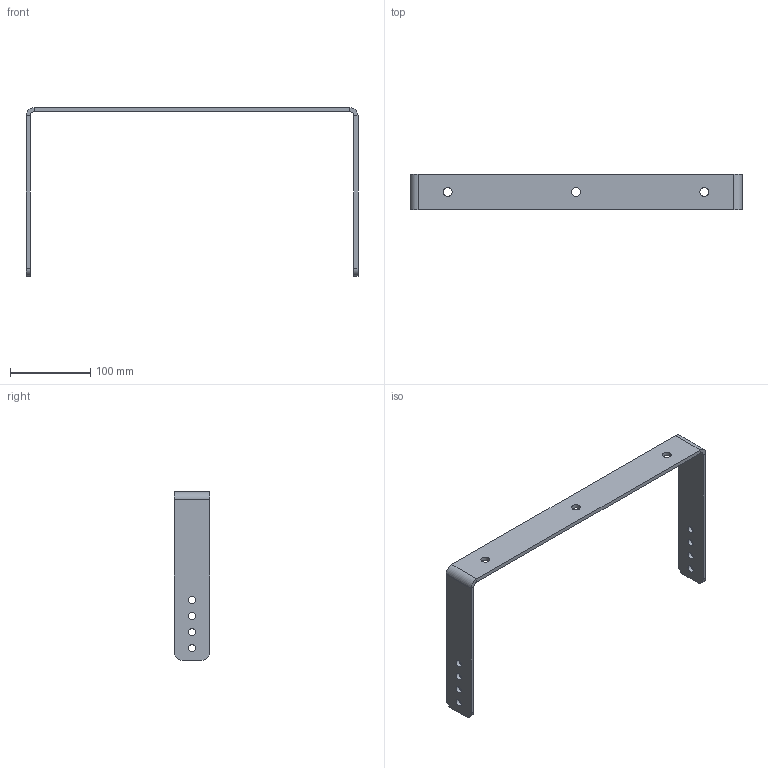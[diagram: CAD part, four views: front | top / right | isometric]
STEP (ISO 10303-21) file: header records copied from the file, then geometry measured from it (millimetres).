
FILE_DESCRIPTION(/* description */ (''),/* implementation_level */ '2;1');
FILE_NAME(/* name */ 'UB 8 Q.stp',/* time_stamp */ '2024-09-25T12:20:47+02:00',/* author */ ('d.streicher'),/* organization */ (''),/* preprocessor_version */ 'ST-DEVELOPER v20',/* originating_system */ 'Autodesk Inventor 2025',/* authorisation */ '');
FILE_SCHEMA (('AUTOMOTIVE_DESIGN { 1 0 10303 214 3 1 1 }'));
Length unit declared in the file: millimetre
Products named in the file (1): UB 8 Q
Bounding box: 414 x 44 x 210 mm (x, y, z)
Volume: 175464.2 mm3; surface area: 80364.8 mm2
Topology: 1 solids, 1 shells, 37 faces, 89 edges, 54 vertices
Faces by surface type: cylinder 19, plane 18
Full cylindrical faces by diameter (mm): 9 x8, 11 x3
Entity records: 1206 total; most frequent: DIRECTION 203, CARTESIAN_POINT 181, ORIENTED_EDGE 178, EDGE_CURVE 89, AXIS2_PLACEMENT_3D 76, EDGE_LOOP 59, VERTEX_POINT 54, LINE 51
